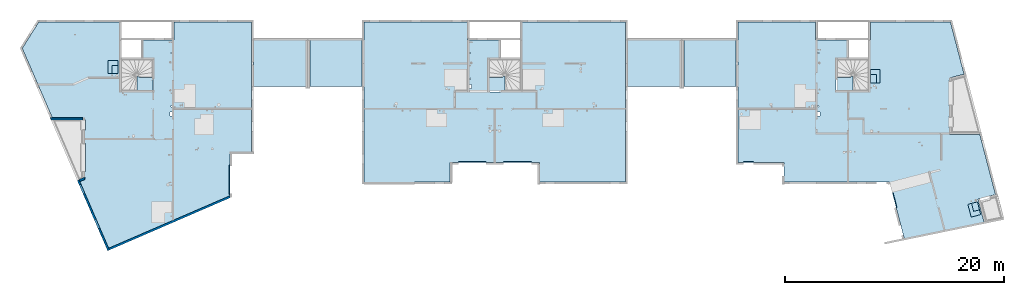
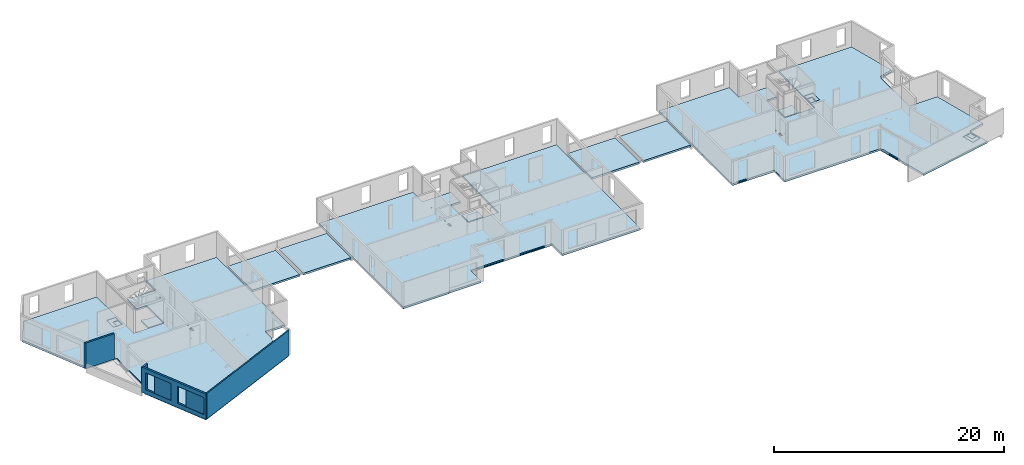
# One storey, part 2 of 24: 10 slabs, 4 walls, 29 openings.
"""IFC2X3 building model written with IfcOpenShell, lengths in centimetres."""

from ifc_helpers import new_model, entity, si_unit, converted_unit, derived_unit, direction, frame, frame_2d, origin, origin_2d_with_axis, place, context, subcontext, project, spatial, polyline, circle_curve, parameter, trimmed, segment, composite_curve, rectangle, circle, outline, extrude, clip, bounded_halfspace, material, layer, layer_set, layer_usage, type_object, element, save


model = new_model("IFC2X3")

# Units and contexts
model_context = context("Model", 3, precision=0.001, world=origin(), true_north=direction((6.12303176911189e-17, 1.0)))
body_context = subcontext(model_context, "Body", "Model", "MODEL_VIEW")
ifc_project = project(units=[si_unit("LENGTHUNIT", "METRE", prefix="CENTI"), si_unit("AREAUNIT", "SQUARE_METRE"), si_unit("VOLUMEUNIT", "CUBIC_METRE"), converted_unit("PLANEANGLEUNIT", "DEGREE", entity("IfcRatioMeasure", 0.0174532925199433), si_unit("PLANEANGLEUNIT", "RADIAN"), dimensions=[0, 0, 0, 0, 0, 0, 0]), si_unit("MASSUNIT", "GRAM", prefix="KILO"), derived_unit("MASSDENSITYUNIT", [(si_unit("MASSUNIT", "GRAM", prefix="KILO"), 1), (si_unit("LENGTHUNIT", "METRE"), -3)]), si_unit("TIMEUNIT", "SECOND"), si_unit("FREQUENCYUNIT", "HERTZ"), si_unit("THERMODYNAMICTEMPERATUREUNIT", "DEGREE_CELSIUS"), derived_unit("THERMALTRANSMITTANCEUNIT", [(si_unit("MASSUNIT", "GRAM", prefix="KILO"), 1), (si_unit("THERMODYNAMICTEMPERATUREUNIT", "KELVIN"), -1), (si_unit("TIMEUNIT", "SECOND"), -3)]), derived_unit("VOLUMETRICFLOWRATEUNIT", [(si_unit("LENGTHUNIT", "METRE"), 3), (si_unit("TIMEUNIT", "SECOND"), -1)]), si_unit("ELECTRICCURRENTUNIT", "AMPERE"), si_unit("ELECTRICVOLTAGEUNIT", "VOLT"), si_unit("POWERUNIT", "WATT"), si_unit("FORCEUNIT", "NEWTON"), si_unit("ILLUMINANCEUNIT", "LUX"), si_unit("LUMINOUSFLUXUNIT", "LUMEN"), si_unit("LUMINOUSINTENSITYUNIT", "CANDELA"), derived_unit("USERDEFINED", [(si_unit("MASSUNIT", "GRAM", prefix="KILO"), -1), (si_unit("LENGTHUNIT", "METRE"), -2), (si_unit("TIMEUNIT", "SECOND"), 3), (si_unit("LUMINOUSFLUXUNIT", "LUMEN"), 1)]), derived_unit("LINEARVELOCITYUNIT", [(si_unit("LENGTHUNIT", "METRE"), 1), (si_unit("TIMEUNIT", "SECOND"), -1)]), si_unit("PRESSUREUNIT", "PASCAL"), derived_unit("USERDEFINED", [(si_unit("LENGTHUNIT", "METRE"), -2), (si_unit("MASSUNIT", "GRAM", prefix="KILO"), 1), (si_unit("TIMEUNIT", "SECOND"), -2)])], contexts=[model_context])

# Site, building, storey
site_placement = place(None, origin())
site = spatial("IfcSite", under=ifc_project, at=site_placement, Name="Default", CompositionType="ELEMENT")
building_placement = place(site_placement, origin())
building = spatial("IfcBuilding", under=site, at=building_placement, Name="CAGE 03", CompositionType="ELEMENT")
storey_placement = place(building_placement, frame((0.0, 0.0, 880.0)))
storey = spatial("IfcBuildingStorey", under=building, at=storey_placement, Name="R+3", CompositionType="ELEMENT", Elevation=880.0)

# Slab, openings
ifc_material_1 = material(Name="Béton, C25/30")
ifc_layer_1 = layer(ifc_material_1, 20.0)
ifc_layer_set_1 = layer_set([ifc_layer_1], Name="Sol:Dalle Béton - 20 cm")
ifc_layer_usage_1 = layer_usage(ifc_layer_set_1, "AXIS3", "POSITIVE", 0.0)
slab_1_placement = place(storey_placement, frame((2767.3065813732, 3205.79894432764, -20.0)))
slab_1 = element("IfcSlab", 1, at=slab_1_placement, inside=storey, material=ifc_layer_usage_1, Name="Sol:Dalle Béton - 20 cm", ObjectType="Sol:Dalle Béton - 20 cm", PredefinedType="FLOOR", context=body_context, shape_type="SweptSolid", body=[
    extrude(outline(polyline([(159.470380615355, 1034.93086087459), (159.470380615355, 869.930860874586), (153.970380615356, 869.930860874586), (153.970380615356, 397.430860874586), (-153.029619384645, 397.430860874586), (-153.029619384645, 704.430860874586), (-53.5296193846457, 704.430860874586), (-53.5296193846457, 869.930860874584), (-338.529619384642, 869.930860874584), (-338.529619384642, 1034.93086087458), (-1046.52961938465, 1034.93086087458), (-1046.52961938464, -150.569139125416), (-848.529619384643, -150.569139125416), (-848.529619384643, -557.490172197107), (254.908165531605, -1034.93086087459), (520.373674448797, -421.399840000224), (476.970380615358, -402.619897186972), (476.970380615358, 158.930860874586), (771.47391161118, 158.930860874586), (1046.52961938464, 794.626284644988), (895.631312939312, 1034.93086087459), (159.470380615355, 1034.93086087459)])), frame((1046.52961938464, 1034.93086087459, 20.0), z_axis=(0.0, 0.0, -1.0), x_axis=(-1.0, 0.0, 0.0)), (0.0, 0.0, 1.0), 20.0),
])
opening_1_placement = place(slab_1_placement, origin())
element("IfcOpeningElement", 2, at=opening_1_placement, cuts=slab_1, ObjectType="Opening", context=body_context, shape_type="SweptSolid", body=[
    extrude(rectangle(XDim=271.0, YDim=26.0000000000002, at=origin_2d_with_axis()), frame((1900.05923876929, 629.861721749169, 8.0), z_axis=(0.0, 0.0, 1.0), x_axis=(0.0, 1.0, 0.0)), (0.0, 0.0, 1.0), 12.0),
])
opening_2_placement = place(slab_1_placement, origin())
element("IfcOpeningElement", 3, at=opening_2_placement, cuts=slab_1, ObjectType="Opening", context=body_context, shape_type="SweptSolid", body=[
    extrude(rectangle(XDim=120.000000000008, YDim=89.9999999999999, at=origin_2d_with_axis()), frame((830.059238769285, 1659.36172174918, 17.0), z_axis=(0.0, 0.0, 1.0), x_axis=(0.0, -1.0, 0.0)), (0.0, 0.0, 1.0), 13.9999999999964),
])
opening_3_placement = place(slab_1_placement, origin())
element("IfcOpeningElement", 4, at=opening_3_placement, cuts=slab_1, ObjectType="Opening", context=body_context, shape_type="SweptSolid", body=[
    extrude(rectangle(XDim=75.0000000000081, YDim=55.0000000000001, at=origin_2d_with_axis()), frame((847.559238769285, 1636.86172174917, 10.0), z_axis=(0.0, 0.0, 1.0), x_axis=(0.0, -1.0, 0.0)), (0.0, 0.0, 1.0), 20.9999999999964),
])
opening_4_placement = place(slab_1_placement, origin())
element("IfcOpeningElement", 5, at=opening_4_placement, cuts=slab_1, ObjectType="Opening", context=body_context, shape_type="SweptSolid", body=[
    extrude(outline(polyline([(-10.1497662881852, 1.95574397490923), (-10.683151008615, -0.486693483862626), (12.7642485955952, -5.60718679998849), (13.8310180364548, -0.722311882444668), (-2.77755668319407, 2.90470421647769), (-2.98479265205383, 1.95574397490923), (-10.1497662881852, 1.95574397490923)])), frame((565.225905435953, 1084.86172174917, 17.2452208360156), z_axis=(0.0, -1.0, 0.0), x_axis=(-0.976974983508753, 0.0, -0.213353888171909)), (0.0, 0.0, -1.0), 91.0000000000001),
])
opening_5_placement = place(slab_1_placement, origin())
element("IfcOpeningElement", 6, at=opening_5_placement, cuts=slab_1, ObjectType="Opening", context=body_context, shape_type="SweptSolid", body=[
    extrude(outline(polyline([(-10.1497662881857, 1.95574397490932), (-10.6831510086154, -0.486693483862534), (12.7642485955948, -5.60718679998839), (13.8310180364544, -0.722311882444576), (-2.77755668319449, 2.90470421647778), (-2.98479265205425, 1.95574397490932), (-10.1497662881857, 1.95574397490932)])), frame((565.22590543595, 704.861721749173, 17.2452208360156), z_axis=(0.0, -1.0, 0.0), x_axis=(-0.976974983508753, 0.0, -0.213353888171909)), (0.0, 0.0, -1.0), 254.999999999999),
])
opening_6_placement = place(slab_1_placement, origin())
element("IfcOpeningElement", 7, at=opening_6_placement, cuts=slab_1, ObjectType="Opening", context=body_context, shape_type="SweptSolid", body=[
    extrude(rectangle(XDim=39.9999999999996, YDim=19.9999999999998, at=origin_2d_with_axis()), frame((1357.05923876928, 1230.36172174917, -254.327930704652), z_axis=(0.0, 0.0, 1.0), x_axis=(0.0, -1.0, 0.0)), (0.0, 0.0, 1.0), 493.425926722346),
])
opening_7_placement = place(slab_1_placement, origin())
element("IfcOpeningElement", 8, at=opening_7_placement, cuts=slab_1, ObjectType="Opening", context=body_context, shape_type="SweptSolid", body=[
    extrude(circle(Radius=5.5, at=origin_2d_with_axis()), frame((1361.55923876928, 1300.36172174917, 0.0)), (0.0, 0.0, 1.0), 20.0),
])
opening_8_placement = place(slab_1_placement, origin())
element("IfcOpeningElement", 9, at=opening_8_placement, cuts=slab_1, ObjectType="Opening", context=body_context, shape_type="SweptSolid", body=[
    extrude(circle(Radius=5.5, at=origin_2d_with_axis()), frame((1361.55923876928, 1785.86172174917, 0.0)), (0.0, 0.0, 1.0), 20.0),
])

ifc_layer_usage_2 = layer_usage(ifc_layer_set_1, "AXIS3", "POSITIVE", 0.0)
slab_2_placement = place(storey_placement, frame((5888.36582014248, 3809.1606660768, -20.0)))
slab_2 = element("IfcSlab", 10, at=slab_2_placement, inside=storey, material=ifc_layer_usage_2, Name="Sol:Dalle Béton - 20 cm", ObjectType="Sol:Dalle Béton - 20 cm", PredefinedType="FLOOR", context=body_context, shape_type="SweptSolid", body=[
    extrude(outline(polyline([(-37.0, 402.749999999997), (62.4999999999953, 402.749999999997), (62.4999999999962, 95.7499999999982), (-244.500000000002, 95.7499999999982), (-244.500000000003, 567.249999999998), (-250.0, 567.249999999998), (-250.0, 733.249999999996), (-1193.0, 733.249999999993), (-1193.0, -727.750000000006), (-408.0, -727.750000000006), (-408.0, -547.750000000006), (408.0, -547.750000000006), (408.0, -727.749999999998), (734.0, -727.749999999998), (734.0, -733.25), (1193.0, -733.249999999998), (1193.0, 733.25), (250.0, 733.249999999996), (250.0, 568.249999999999), (-37.0, 568.249999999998), (-37.0, 402.749999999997)])), frame((1193.0, 733.25, 20.0), z_axis=(0.0, 0.0, -1.0), x_axis=(-1.0, 0.0, 0.0)), (0.0, 0.0, 1.0), 20.0),
])
opening_9_placement = place(slab_2_placement, origin())
element("IfcOpeningElement", 11, at=opening_9_placement, cuts=slab_2, ObjectType="Opening", context=body_context, shape_type="SweptSolid", body=[
    extrude(rectangle(XDim=254.999999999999, YDim=26.0000000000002, at=origin_2d_with_axis()), frame((986.499999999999, 180.499999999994, 8.0)), (0.0, 0.0, 1.0), 12.0),
])
opening_10_placement = place(slab_2_placement, origin())
element("IfcOpeningElement", 12, at=opening_10_placement, cuts=slab_2, ObjectType="Opening", context=body_context, shape_type="SweptSolid", body=[
    extrude(rectangle(XDim=254.999999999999, YDim=25.9999999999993, at=origin_2d_with_axis()), frame((1399.49999999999, 180.499999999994, 8.0)), (0.0, 0.0, 1.0), 12.0),
])
opening_11_placement = place(slab_2_placement, origin())
element("IfcOpeningElement", 13, at=opening_11_placement, cuts=slab_2, ObjectType="Opening", context=body_context, shape_type="SweptSolid", body=[
    extrude(rectangle(XDim=39.9999999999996, YDim=19.9999999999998, at=origin_2d_with_axis()), frame((971.0, 878.0, -254.327930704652), z_axis=(0.0, 0.0, 1.0), x_axis=(0.0, -1.0, 0.0)), (0.0, 0.0, 1.0), 493.425926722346),
])
opening_12_placement = place(slab_2_placement, origin())
element("IfcOpeningElement", 14, at=opening_12_placement, cuts=slab_2, ObjectType="Opening", context=body_context, shape_type="SweptSolid", body=[
    extrude(circle(Radius=5.5, at=origin_2d_with_axis()), frame((966.500000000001, 948.0, 0.0)), (0.0, 0.0, 1.0), 20.0),
])
opening_13_placement = place(slab_2_placement, origin())
element("IfcOpeningElement", 15, at=opening_13_placement, cuts=slab_2, ObjectType="Opening", context=body_context, shape_type="SweptSolid", body=[
    extrude(circle(Radius=5.5, at=origin_2d_with_axis()), frame((966.5, 1182.49999999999, 0.0)), (0.0, 0.0, 1.0), 20.0),
])

ifc_layer_usage_3 = layer_usage(ifc_layer_set_1, "AXIS3", "POSITIVE", 0.0)
slab_3_placement = place(storey_placement, frame((9302.36582014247, 3296.83520563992, -20.0)))
slab_3 = element("IfcSlab", 16, at=slab_3_placement, inside=storey, material=ifc_layer_usage_3, Name="Sol:Dalle Béton - 20 cm", ObjectType="Sol:Dalle Béton - 20 cm", PredefinedType="FLOOR", context=body_context, shape_type="SweptSolid", body=[
    extrude(outline(polyline([(466.513688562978, 989.412730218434), (466.513688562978, 824.412730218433), (181.513688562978, 824.412730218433), (181.513688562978, 658.912730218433), (281.013688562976, 658.912730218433), (281.013688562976, 351.912730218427), (-25.9863114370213, 351.912730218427), (-25.9863114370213, 824.412730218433), (-31.4863114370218, 824.412730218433), (-31.4863114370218, 989.41273021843), (-763.038472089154, 989.412730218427), (-887.469560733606, 512.946663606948), (-753.486311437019, 477.956382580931), (-753.486311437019, -37.5872697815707), (-1031.24377985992, -37.5872697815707), (-1174.51368856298, -586.190119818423), (-1014.86794097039, -627.882268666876), (-1070.08746437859, -839.326445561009), (-341.880906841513, -989.412730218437), (-206.648641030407, -471.587269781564), (755.513688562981, -471.587269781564), (755.513688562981, -291.587269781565), (1174.51368856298, -291.587269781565), (1174.51368856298, 989.412730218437), (466.513688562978, 989.412730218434)])), frame((1174.51368856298, 989.412730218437, 20.0), z_axis=(0.0, 0.0, -1.0), x_axis=(-1.0, 0.0, 0.0)), (0.0, 0.0, 1.0), 20.0),
])
opening_14_placement = place(slab_3_placement, origin())
element("IfcOpeningElement", 17, at=opening_14_placement, cuts=slab_3, ObjectType="Opening", context=body_context, shape_type="SweptSolid", body=[
    extrude(rectangle(XDim=90.0000000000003, YDim=26.0000000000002, at=origin_2d_with_axis()), frame((94.500000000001, 692.825460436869, 8.0)), (0.0, 0.0, 1.0), 12.0),
])
opening_15_placement = place(slab_3_placement, origin())
element("IfcOpeningElement", 18, at=opening_15_placement, cuts=slab_3, ObjectType="Opening", context=body_context, shape_type="SweptSolid", body=[
    extrude(rectangle(XDim=220.0, YDim=26.0000000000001, at=origin_2d_with_axis()), frame((1409.15874534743, 390.834914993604, 8.0), z_axis=(0.0, 0.0, 1.0), x_axis=(0.25267968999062, -0.967549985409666, 0.0)), (0.0, 0.0, 1.0), 12.0),
])
opening_16_placement = place(slab_3_placement, origin())
element("IfcOpeningElement", 19, at=opening_16_placement, cuts=slab_3, ObjectType="Opening", context=body_context, shape_type="SweptSolid", body=[
    extrude(rectangle(XDim=120.000000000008, YDim=90.0000000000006, at=origin_2d_with_axis()), frame((2155.07735478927, 267.304845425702, 17.0), z_axis=(0.0, 0.0, 1.0), x_axis=(-0.252679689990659, 0.967549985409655, 0.0)), (0.0, 0.0, 1.0), 13.9999999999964),
])
opening_17_placement = place(slab_3_placement, origin())
element("IfcOpeningElement", 20, at=opening_17_placement, cuts=slab_3, ObjectType="Opening", context=body_context, shape_type="SweptSolid", body=[
    extrude(rectangle(XDim=75.0000000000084, YDim=55.0000000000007, at=origin_2d_with_axis()), frame((2166.32418650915, 293.496614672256, 10.0), z_axis=(0.0, 0.0, 1.0), x_axis=(-0.252679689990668, 0.967549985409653, 0.0)), (0.0, 0.0, 1.0), 20.9999999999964),
])
opening_18_placement = place(slab_3_placement, origin())
element("IfcOpeningElement", 21, at=opening_18_placement, cuts=slab_3, ObjectType="Opening", context=body_context, shape_type="SweptSolid", body=[
    extrude(rectangle(XDim=90.0000000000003, YDim=120.000000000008, at=origin_2d_with_axis()), frame((1251.0, 1482.82546043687, 17.0), z_axis=(0.0, 0.0, 1.0), x_axis=(-1.0, 0.0, 0.0)), (0.0, 0.0, 1.0), 13.9999999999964),
])
opening_19_placement = place(slab_3_placement, origin())
element("IfcOpeningElement", 22, at=opening_19_placement, cuts=slab_3, ObjectType="Opening", context=body_context, shape_type="SweptSolid", body=[
    extrude(rectangle(XDim=54.9999999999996, YDim=75.0000000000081, at=origin_2d_with_axis()), frame((1233.50000000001, 1460.32546043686, 10.0), z_axis=(0.0, 0.0, 1.0), x_axis=(-1.0, 0.0, 0.0)), (0.0, 0.0, 1.0), 20.9999999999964),
])
opening_20_placement = place(slab_3_placement, origin())
element("IfcOpeningElement", 23, at=opening_20_placement, cuts=slab_3, ObjectType="Opening", context=body_context, shape_type="SweptSolid", body=[
    extrude(outline(polyline([(0.254779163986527, -10.3333333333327), (2.7547791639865, -10.3333333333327), (2.7547791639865, 13.666666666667), (-2.24522083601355, 13.666666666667), (-2.24522083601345, -3.33333333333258), (-1.27389581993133, -3.33333333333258), (0.254779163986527, -10.3333333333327)])), frame((1932.33333333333, 1019.82546043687, 17.2452208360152), z_axis=(0.0, 1.0, 0.0), x_axis=(0.0, 0.0, 1.0)), (0.0, 0.0, 1.0), 91.000000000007),
])
opening_21_placement = place(slab_3_placement, origin())
element("IfcOpeningElement", 24, at=opening_21_placement, cuts=slab_3, ObjectType="Opening", context=body_context, shape_type="SweptSolid", body=[
    extrude(outline(polyline([(0.254779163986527, -10.3333333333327), (2.7547791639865, -10.3333333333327), (2.7547791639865, 13.666666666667), (-2.24522083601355, 13.666666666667), (-2.24522083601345, -3.33333333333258), (-1.27389581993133, -3.33333333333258), (0.254779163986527, -10.3333333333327)])), frame((1932.33333333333, 1219.82546043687, 17.2452208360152), z_axis=(0.0, 1.0, 0.0), x_axis=(0.0, 0.0, 1.0)), (0.0, 0.0, 1.0), 220.000000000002),
])
opening_22_placement = place(slab_3_placement, origin())
element("IfcOpeningElement", 25, at=opening_22_placement, cuts=slab_3, ObjectType="Opening", context=body_context, shape_type="SweptSolid", body=[
    extrude(rectangle(XDim=39.9999999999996, YDim=19.9999999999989, at=origin_2d_with_axis()), frame((736.0, 1139.32546043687, -254.327930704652), z_axis=(0.0, 0.0, 1.0), x_axis=(0.0, -1.0, 0.0)), (0.0, 0.0, 1.0), 493.425926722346),
])
opening_23_placement = place(slab_3_placement, origin())
element("IfcOpeningElement", 26, at=opening_23_placement, cuts=slab_3, ObjectType="Opening", context=body_context, shape_type="SweptSolid", body=[
    extrude(circle(Radius=5.5, at=origin_2d_with_axis()), frame((731.500000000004, 1209.32546043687, 0.0)), (0.0, 0.0, 1.0), 20.0),
])
opening_24_placement = place(slab_3_placement, origin())
element("IfcOpeningElement", 27, at=opening_24_placement, cuts=slab_3, ObjectType="Opening", context=body_context, shape_type="SweptSolid", body=[
    extrude(circle(Radius=5.5, at=origin_2d_with_axis()), frame((731.500000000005, 1694.82546043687, 0.0)), (0.0, 0.0, 1.0), 20.0),
])

# Slabs
ifc_layer_usage_4 = layer_usage(ifc_layer_set_1, "AXIS3", "POSITIVE", 0.0)
slab_4_placement = place(storey_placement, origin())
element("IfcSlab", 28, at=slab_4_placement, inside=storey, material=ifc_layer_usage_4, Name="Sol:Dalle Béton - 20 cm", ObjectType="Sol:Dalle Béton - 20 cm", PredefinedType="FLOOR", context=body_context, shape_type="SweptSolid", body=[
    extrude(rectangle(XDim=424.000000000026, YDim=477.0, at=frame_2d((-4.2632564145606e-13, 4.2632564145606e-13), x_axis=(1.0, 0.0))), frame((5116.86582014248, 4898.66066607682, 0.0), z_axis=(0.0, 0.0, -1.0), x_axis=(0.0, 1.0, 0.0)), (0.0, 0.0, 1.0), 20.0),
])
ifc_layer_usage_5 = layer_usage(ifc_layer_set_1, "AXIS3", "POSITIVE", 0.0)
slab_5_placement = place(storey_placement, origin())
element("IfcSlab", 29, at=slab_5_placement, inside=storey, material=ifc_layer_usage_5, Name="Sol:Dalle Béton - 20 cm", ObjectType="Sol:Dalle Béton - 20 cm", PredefinedType="FLOOR", context=body_context, shape_type="SweptSolid", body=[
    extrude(rectangle(XDim=424.000000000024, YDim=476.999999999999, at=frame_2d((4.40536496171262e-13, 0.0), x_axis=(1.0, 0.0))), frame((5631.86582014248, 4898.66066607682, 0.0), z_axis=(0.0, 0.0, -1.0), x_axis=(0.0, 1.0, 0.0)), (0.0, 0.0, 1.0), 20.0),
])
ifc_layer_usage_6 = layer_usage(ifc_layer_set_1, "AXIS3", "POSITIVE", 0.0)
slab_6_placement = place(storey_placement, origin())
element("IfcSlab", 30, at=slab_6_placement, inside=storey, material=ifc_layer_usage_6, Name="Sol:Dalle Béton - 20 cm", ObjectType="Sol:Dalle Béton - 20 cm", PredefinedType="FLOOR", context=body_context, shape_type="SweptSolid", body=[
    extrude(rectangle(XDim=424.0, YDim=476.999999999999, at=frame_2d((-4.2632564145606e-13, 0.0), x_axis=(1.0, 0.0))), frame((8530.86582014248, 4898.6606660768, 0.0), z_axis=(0.0, 0.0, -1.0), x_axis=(0.0, 1.0, 0.0)), (0.0, 0.0, 1.0), 20.0),
])
ifc_layer_usage_7 = layer_usage(ifc_layer_set_1, "AXIS3", "POSITIVE", 0.0)
slab_7_placement = place(storey_placement, origin())
element("IfcSlab", 31, at=slab_7_placement, inside=storey, material=ifc_layer_usage_7, Name="Sol:Dalle Béton - 20 cm", ObjectType="Sol:Dalle Béton - 20 cm", PredefinedType="FLOOR", context=body_context, shape_type="SweptSolid", body=[
    extrude(rectangle(XDim=423.999999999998, YDim=477.000000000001, at=frame_2d((4.40536496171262e-13, -8.66862137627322e-13), x_axis=(1.0, 0.0))), frame((9045.86582014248, 4898.6606660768, 0.0), z_axis=(0.0, 0.0, -1.0), x_axis=(0.0, 1.0, 0.0)), (0.0, 0.0, 1.0), 20.0),
])
ifc_layer_usage_8 = layer_usage(ifc_layer_set_1, "AXIS3", "POSITIVE", 0.0)
slab_8_placement = place(storey_placement, origin())
element("IfcSlab", 32, at=slab_8_placement, inside=storey, material=ifc_layer_usage_8, Name="Sol:Dalle Béton - 20 cm", ObjectType="Sol:Dalle Béton - 20 cm", PredefinedType="FLOOR", context=body_context, shape_type="SweptSolid", body=[
    extrude(outline(composite_curve([segment(polyline([(-85.2340667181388, -57.407853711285), (46.2659332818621, -57.407853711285)]), True, "CONTINUOUS"), segment(trimmed(circle_curve(frame_2d((61.265933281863, -57.4078537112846), x_axis=(-1.0, 0.0)), 15.0000000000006), [parameter(309.828117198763)], [parameter(0.0)], True, "PARAMETER"), False, "CONTINUOUS"), segment(trimmed(circle_curve(frame_2d((70.189448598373, -17.4802710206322), x_axis=(-0.546347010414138, -0.837558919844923)), 33.9176653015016), [parameter(303.116761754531)], [parameter(0.0)], True, "PARAMETER"), False, "CONTINUOUS"), segment(polyline([(36.271783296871, -17.4802710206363), (36.271783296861, 89.0921462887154)]), True, "CONTINUOUS"), segment(polyline([(36.271783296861, 89.0921462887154), (-85.2340667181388, 89.0921462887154)]), True, "CONTINUOUS"), segment(polyline([(-85.2340667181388, 89.0921462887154), (-85.2340667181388, -57.407853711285)]), True, "CONTINUOUS")], self_intersect=False)), frame((3870.77367385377, 4730.39473279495, 0.0), z_axis=(0.0, 0.0, -1.0), x_axis=(0.0, 1.0, 0.0)), (0.0, 0.0, 1.0), 20.0),
])
ifc_layer_usage_9 = layer_usage(ifc_layer_set_1, "AXIS3", "POSITIVE", 0.0)
slab_9_placement = place(storey_placement, origin())
element("IfcSlab", 33, at=slab_9_placement, inside=storey, material=ifc_layer_usage_9, Name="Sol:Dalle Béton - 20 cm", ObjectType="Sol:Dalle Béton - 20 cm", PredefinedType="FLOOR", context=body_context, shape_type="SweptSolid", body=[
    extrude(outline(composite_curve([segment(polyline([(-85.2340667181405, -89.092146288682), (36.2717832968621, -89.0921462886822)]), True, "CONTINUOUS"), segment(polyline([(36.2717832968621, -89.0921462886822), (36.2717832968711, 17.4802710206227)]), True, "CONTINUOUS"), segment(trimmed(circle_curve(frame_2d((70.1894485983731, 17.4802710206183), x_axis=(-1.0, 0.0)), 33.9176653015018), [parameter(303.116761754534)], [parameter(0.0)], True, "PARAMETER"), False, "CONTINUOUS"), segment(trimmed(circle_curve(frame_2d((61.2659332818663, 57.4078537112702), x_axis=(-0.640486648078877, -0.76796930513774)), 15.0000000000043), [parameter(309.828117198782)], [parameter(0.0)], True, "PARAMETER"), False, "CONTINUOUS"), segment(polyline([(46.2659332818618, 57.4078537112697), (-85.2340667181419, 57.407853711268)]), True, "CONTINUOUS"), segment(polyline([(-85.2340667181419, 57.407853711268), (-85.2340667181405, -89.092146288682)]), True, "CONTINUOUS")], self_intersect=False)), frame((7114.95796643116, 4730.39473279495, 0.0), z_axis=(0.0, 0.0, -1.0), x_axis=(0.0, 1.0, 0.0)), (0.0, 0.0, 1.0), 20.0),
])
ifc_layer_usage_10 = layer_usage(ifc_layer_set_1, "AXIS3", "POSITIVE", 0.0)
slab_10_placement = place(storey_placement, origin())
element("IfcSlab", 34, at=slab_10_placement, inside=storey, material=ifc_layer_usage_10, Name="Sol:Dalle Béton - 20 cm", ObjectType="Sol:Dalle Béton - 20 cm", PredefinedType="FLOOR", context=body_context, shape_type="SweptSolid", body=[
    extrude(outline(composite_curve([segment(polyline([(-85.2340667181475, -89.0921462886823), (36.2717832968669, -89.0921462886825)]), True, "CONTINUOUS"), segment(polyline([(36.2717832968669, -89.0921462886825), (36.2717832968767, 17.4802710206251)]), True, "CONTINUOUS"), segment(trimmed(circle_curve(frame_2d((70.1894485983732, 17.4802710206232), x_axis=(-1.0, 0.0)), 33.9176653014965), [parameter(303.116761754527)], [parameter(0.0)], True, "PARAMETER"), False, "CONTINUOUS"), segment(trimmed(circle_curve(frame_2d((61.2659332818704, 57.4078537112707), x_axis=(-0.640486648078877, -0.76796930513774)), 15.0000000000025), [parameter(309.828117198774)], [parameter(0.0)], True, "PARAMETER"), False, "CONTINUOUS"), segment(polyline([(46.2659332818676, 57.4078537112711), (-85.2340667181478, 57.4078537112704)]), True, "CONTINUOUS"), segment(polyline([(-85.2340667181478, 57.4078537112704), (-85.2340667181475, -89.0921462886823)]), True, "CONTINUOUS")], self_intersect=False)), frame((10291.9579664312, 4730.39473279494, 0.0), z_axis=(0.0, 0.0, -1.0), x_axis=(0.0, 1.0, 0.0)), (0.0, 0.0, 1.0), 20.0),
])

# Wall, openings
ifc_layer_2 = layer(ifc_material_1, 18.0)
ifc_layer_set_2 = layer_set([ifc_layer_2], Name="Mur de base:Voile BA 18")
ifc_layer_usage_11 = layer_usage(ifc_layer_set_2, "AXIS2", "NEGATIVE", 9.0)
wall_type_1 = type_object("IfcWallType", Name="Mur de base:Voile BA 18", PredefinedType="STANDARD", material=ifc_layer_set_2)
wall_1_placement = place(storey_placement, frame((3555.63190908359, 3190.75283012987, 0.0), z_axis=(0.0, 0.0, 1.0), x_axis=(-0.397106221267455, 0.917772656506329, 0.0)))
wall_1 = element("IfcWallStandardCase", 35, at=wall_1_placement, inside=storey, type_object=wall_type_1, material=ifc_layer_usage_11, Name="Mur de base:Voile BA 18", ObjectType="Mur de base:Voile BA 18", context=body_context, shape_type="SweptSolid", body=[
    extrude(rectangle(XDim=698.999999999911, YDim=18.0000000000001, at=frame_2d((349.499999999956, -3.90798504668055e-14), x_axis=(-1.0, 0.0))), origin(), (0.0, 0.0, 1.0), 270.0),
])
opening_25_placement = place(wall_1_placement, origin())
element("IfcOpeningElement", 36, at=opening_25_placement, cuts=wall_1, Name="Mur de base:Voile BA 18", ObjectType="Recess", context=body_context, shape_type="SweptSolid", body=[
    extrude(rectangle(XDim=181.0, YDim=184.0, at=frame_2d((-2.91322521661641e-13, 1.06581410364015e-13), x_axis=(0.0, 1.0))), frame((470.0, 7.0, 135.5), z_axis=(0.0, 1.0, 0.0), x_axis=(1.0, 0.0, 0.0)), (0.0, 0.0, 1.0), 1.99999999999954),
])
opening_26_placement = place(wall_1_placement, origin())
element("IfcOpeningElement", 37, at=opening_26_placement, cuts=wall_1, Name="Mur de base:Voile BA 18", ObjectType="Recess", context=body_context, shape_type="SweptSolid", body=[
    extrude(rectangle(XDim=181.0, YDim=194.0, at=frame_2d((0.0, 1.06581410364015e-13), x_axis=(0.0, 1.0))), frame((121.0, 7.0, 135.5), z_axis=(0.0, 1.0, 0.0), x_axis=(1.0, 0.0, 0.0)), (0.0, 0.0, 1.0), 2.00000000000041),
])
opening_27_placement = place(wall_1_placement, origin())
element("IfcOpeningElement", 38, at=opening_27_placement, cuts=wall_1, Name="Mur de base:Voile BA 18", ObjectType="Recess", context=body_context, shape_type="SweptSolid", body=[
    extrude(rectangle(XDim=181.0, YDim=194.0, at=frame_2d((0.0, 1.06581410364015e-13), x_axis=(0.0, 1.0))), frame((1875.49999999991, 7.0, 135.5), z_axis=(0.0, 1.0, 0.0), x_axis=(1.0, 0.0, 0.0)), (0.0, 0.0, 1.0), 2.00000000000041),
])
opening_28_placement = place(wall_1_placement, frame((-1516.4221495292, 4530.32954212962, 0.0), z_axis=(0.0, 0.0, 1.0), x_axis=(-0.397106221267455, -0.917772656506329, 0.0)))
element("IfcOpeningElement", 39, at=opening_28_placement, cuts=wall_1, Name="Mur de base:Voile BA 18", ObjectType="Opening", context=body_context, shape_type="SweptSolid", body=[
    extrude(rectangle(XDim=181.0, YDim=91.0, at=frame_2d((0.0, 8.88178419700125e-14), x_axis=(1.0, 0.0))), frame((3445.99847860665, 3805.24475108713, 135.5), z_axis=(-0.917772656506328, -0.397106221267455, 0.0), x_axis=(0.0, 0.0, 1.0)), (0.0, 0.0, 1.0), 304.8),
])
opening_29_placement = place(wall_1_placement, frame((-1516.4221495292, 4530.32954212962, 0.0), z_axis=(0.0, 0.0, 1.0), x_axis=(-0.397106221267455, -0.917772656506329, 0.0)))
element("IfcOpeningElement", 40, at=opening_29_placement, cuts=wall_1, Name="Mur de base:Voile BA 18", ObjectType="Opening", context=body_context, shape_type="SweptSolid", body=[
    extrude(rectangle(XDim=181.0, YDim=91.0, at=frame_2d((0.0, 8.88178419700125e-14), x_axis=(1.0, 0.0))), frame((3582.60301872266, 3489.53095724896, 135.5), z_axis=(-0.917772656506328, -0.397106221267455, 0.0), x_axis=(0.0, 0.0, 1.0)), (0.0, 0.0, 1.0), 304.8),
])

# Walls
ifc_layer_usage_12 = layer_usage(ifc_layer_set_2, "AXIS2", "NEGATIVE", 9.0)
wall_2_placement = place(storey_placement, frame((3289.88857031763, 3827.58991911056, 0.0), z_axis=(0.0, 0.0, 1.0), x_axis=(0.917772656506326, 0.397106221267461, 0.0)))
element("IfcWallStandardCase", 41, at=wall_2_placement, inside=storey, type_object=wall_type_1, material=ifc_layer_usage_12, Name="Mur de base:Voile BA 18", ObjectType="Mur de base:Voile BA 18", context=body_context, shape_type="SweptSolid", body=[
    extrude(outline(polyline([(47.2919884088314, -9.0), (55.0803136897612, 9.0), (35.4676134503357, 9.0), (0.0, 9.0), (0.0, -9.0), (47.2919884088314, -9.0)])), origin(), (0.0, 0.0, 1.0), 270.0),
])
ifc_layer_usage_13 = layer_usage(ifc_layer_set_2, "AXIS2", "NEGATIVE", 9.0)
wall_3_placement = place(storey_placement, frame((3318.86582014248, 4390.66066607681, 0.0), z_axis=(0.0, 0.0, 1.0), x_axis=(-1.0, 0.0, 0.0)))
element("IfcWallStandardCase", 42, at=wall_3_placement, inside=storey, type_object=wall_type_1, material=ifc_layer_usage_13, Name="Mur de base:Voile BA 18", ObjectType="Mur de base:Voile BA 18", context=body_context, shape_type="SweptSolid", body=[
    extrude(outline(polyline([(296.116231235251, -9.0), (288.327905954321, 9.0), (0.0, 9.0), (0.0, -9.0), (276.503530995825, -9.0), (296.116231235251, -9.0)])), origin(), (0.0, 0.0, 1.0), 270.0),
])
ifc_material_2 = material(Name="Béton, panneaux préfa 30/37")
ifc_layer_3 = layer(ifc_material_2, 5.5)
ifc_layer_4 = layer(ifc_material_1, 7.0)
ifc_layer_5 = layer(ifc_material_2, 5.5)
ifc_layer_set_3 = layer_set([ifc_layer_3, ifc_layer_4, ifc_layer_5], Name="Mur de base:premur 18")
ifc_layer_usage_14 = layer_usage(ifc_layer_set_3, "AXIS2", "POSITIVE", -9.0)
wall_type_2 = type_object("IfcWallType", Name="Mur de base:premur 18", PredefinedType="NOTDEFINED")
wall_4_placement = place(storey_placement, frame((3560.31790700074, 3202.58674002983, 0.0), z_axis=(0.0, 0.0, 1.0), x_axis=(0.917772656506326, 0.39710622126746, 0.0)))
element("IfcWallStandardCase", 43, at=wall_4_placement, inside=storey, type_object=wall_type_2, material=ifc_layer_usage_14, Name="Mur de base:premur 18", ObjectType="Mur de base:premur 18", context=body_context, shape_type="Clipping", body=[
    clip(clip(clip(extrude(outline(polyline([(1196.89113568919, -9.0), (1204.67946097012, 9.0), (648.986287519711, 9.0), (629.373587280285, 9.0), (0.0, 9.0), (0.0, 3.50000000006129), (0.0, -9.0), (1196.89113568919, -9.0)])), origin(), (0.0, 0.0, 1.0), 270.0), bounded_halfspace(frame((0.0, -9.0, 270.0), z_axis=(0.0, 0.0, -1.0), x_axis=(0.0, 1.0, 0.0)), True, frame((0.0, -9.0, 270.0)), polyline([(0.0, 0.0), (1196.89113568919, 0.0), (1202.29969491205, 12.4999999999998), (0.0, 12.5000000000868), (0.0, 0.0)]))), bounded_halfspace(frame((0.0, 3.5000000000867, 250.0), z_axis=(0.0, 0.0, -1.0), x_axis=(-0.397106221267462, -0.917772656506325, 0.0)), True, frame((0.0, 3.5000000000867, 250.0), z_axis=(0.0, 0.0, -1.0), x_axis=(-0.397106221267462, -0.917772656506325, 0.0)), polyline([(0.0, 0.0), (-5.04774961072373, 2.18408421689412), (-254.975916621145, -575.437784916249), (-262.764241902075, -593.437784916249), (-483.433458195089, -1103.43778491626), (-477.440688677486, -1103.43778491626), (0.0, 0.0)]))), bounded_halfspace(frame((1202.29969491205, 3.49999999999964, 250.0), z_axis=(0.0, -1.0, 0.0), x_axis=(0.0, 0.0, 1.0)), True, frame((1202.29969491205, 3.49999999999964, 250.0), z_axis=(0.0, -1.0, 0.0), x_axis=(0.0, 0.0, 1.0)), polyline([(0.0, 0.0), (20.0, 0.0), (20.0, 1202.29969491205), (0.0, 1202.2996949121), (0.0, 0.0)]))),
])

save(model, "model.ifc")
